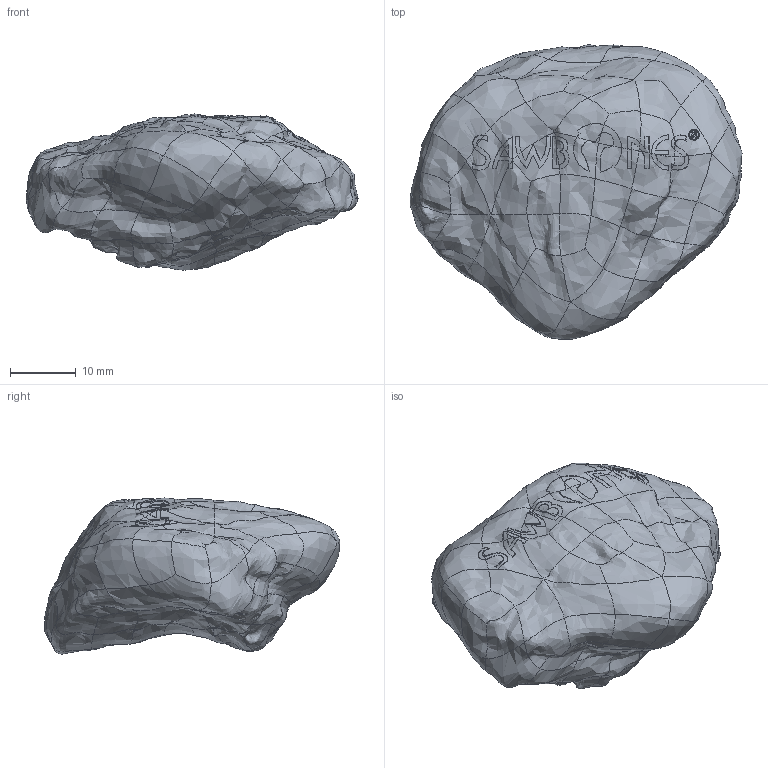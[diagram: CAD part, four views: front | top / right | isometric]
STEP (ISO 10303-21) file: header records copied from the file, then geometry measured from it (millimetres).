
FILE_DESCRIPTION (( 'STEP AP203' ), '1' );
FILE_NAME ('1128.STEP', '2025-06-04T20:32:36', ( '' ), ( '' ), 'SwSTEP 2.0', 'SolidWorks 2024', '' );
FILE_SCHEMA (( 'CONFIG_CONTROL_DESIGN' ));
Length unit declared in the file: millimetre
Products named in the file (1): 1128
Bounding box: 50.63 x 45.02 x 23.82 mm (x, y, z)
Volume: 21965.8 mm3; surface area: 4899.8 mm2
Topology: 1 solids, 1 shells, 389 faces, 963 edges, 580 vertices
Faces by surface type: bspline 389
Entity records: 42958 total; most frequent: CARTESIAN_POINT 36878, ORIENTED_EDGE 1926, B_SPLINE_CURVE_WITH_KNOTS 963, EDGE_CURVE 963, VERTEX_POINT 580, EDGE_LOOP 393, B_SPLINE_SURFACE_WITH_KNOTS 389, FACE_OUTER_BOUND 389
